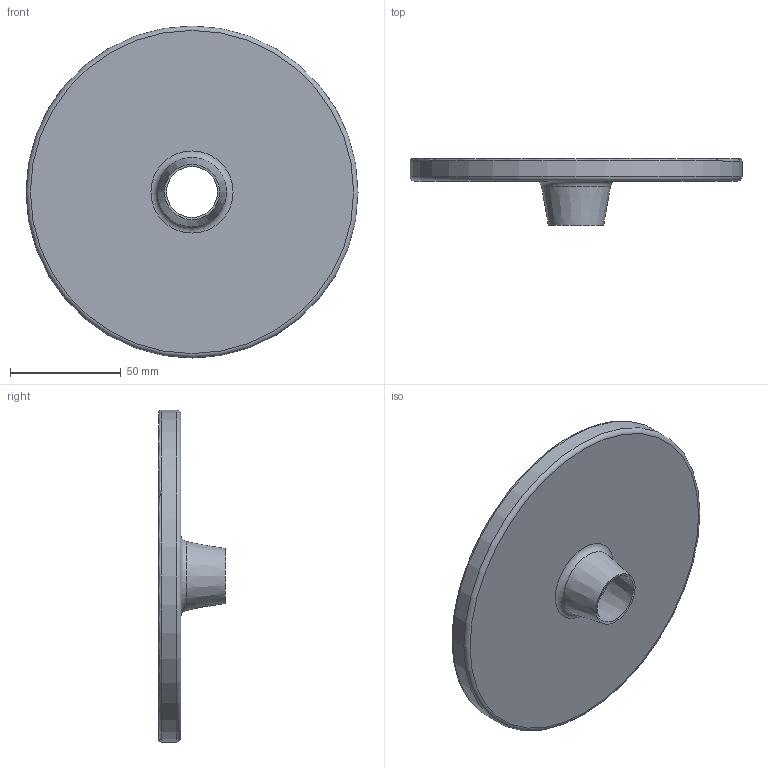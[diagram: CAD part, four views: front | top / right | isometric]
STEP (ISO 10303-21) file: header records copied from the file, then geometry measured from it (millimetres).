
FILE_DESCRIPTION(/* description */ ('COVER SUPPORTO PIASTRA A MURO Ø150'),/* implementation_level */ '2;1');
FILE_NAME(/* name */ 'C:\profileTemp\INVwork\I06949.step',/* time_stamp */ '2023-03-17T12:32:39+01:00',/* author */ ('Arianna'),/* organization */ (''),/* preprocessor_version */ 'ST-DEVELOPER v18.1',/* originating_system */ 'Autodesk Inventor 2021',/* authorisation */ '');
FILE_SCHEMA (('AUTOMOTIVE_DESIGN { 1 0 10303 214 3 1 1 }'));
Length unit declared in the file: millimetre
Products named in the file (1): I06949
Bounding box: 150 x 30 x 150 mm (x, y, z)
Volume: 22595.9 mm3; surface area: 45739.5 mm2
Topology: 1 solids, 1 shells, 36 faces, 94 edges, 60 vertices
Faces by surface type: plane 17, torus 8, cylinder 8, cone 3
Full cylindrical faces by diameter (mm): 148 x1, 150 x1
Entity records: 1208 total; most frequent: CARTESIAN_POINT 245, DIRECTION 209, ORIENTED_EDGE 188, EDGE_CURVE 94, AXIS2_PLACEMENT_3D 84, VERTEX_POINT 60, CIRCLE 47, LINE 41
